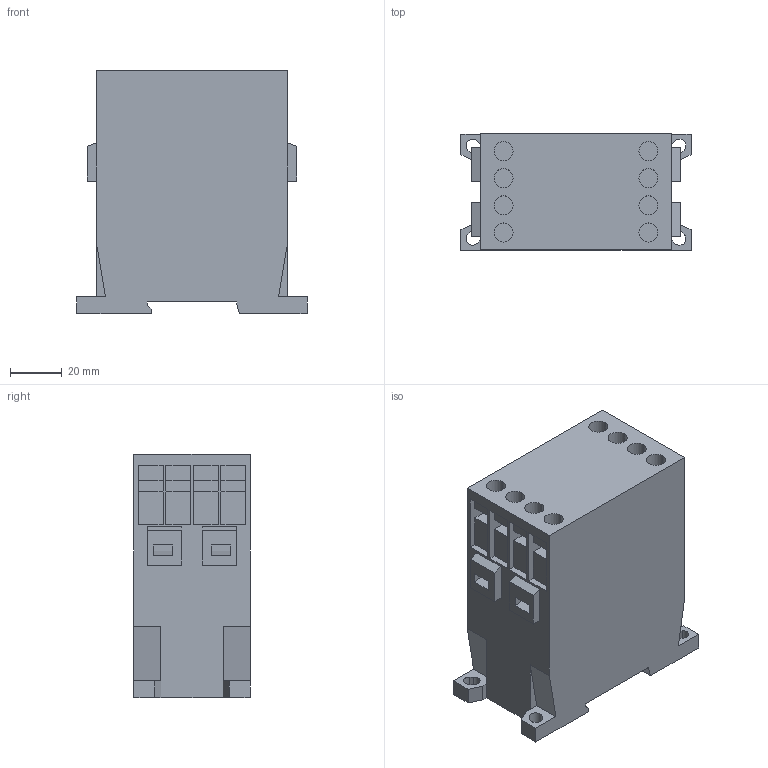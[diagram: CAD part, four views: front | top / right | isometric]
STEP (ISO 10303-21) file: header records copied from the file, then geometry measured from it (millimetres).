
FILE_DESCRIPTION (( 'STEP AP203' ), '1' );
FILE_NAME ('KG3-10_14_18_22.STEP', '2014-02-12T05:29:18', ( 'edv' ), ( '' ), 'SwSTEP 2.0', 'SolidWorks 2014', '' );
FILE_SCHEMA (( 'CONFIG_CONTROL_DESIGN' ));
Length unit declared in the file: millimetre
Products named in the file (1): KG3-10_14_18_22
Bounding box: 89 x 45 x 94 mm (x, y, z)
Volume: 296191.4 mm3; surface area: 37483 mm2
Topology: 1 solids, 1 shells, 193 faces, 497 edges, 330 vertices
Faces by surface type: plane 165, cylinder 28
Entity records: 5888 total; most frequent: CARTESIAN_POINT 1021, ORIENTED_EDGE 994, DIRECTION 941, EDGE_CURVE 497, VECTOR 441, LINE 441, VERTEX_POINT 330, AXIS2_PLACEMENT_3D 250
